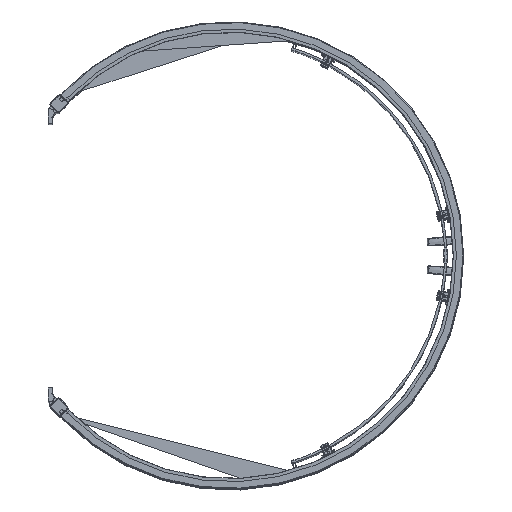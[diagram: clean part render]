
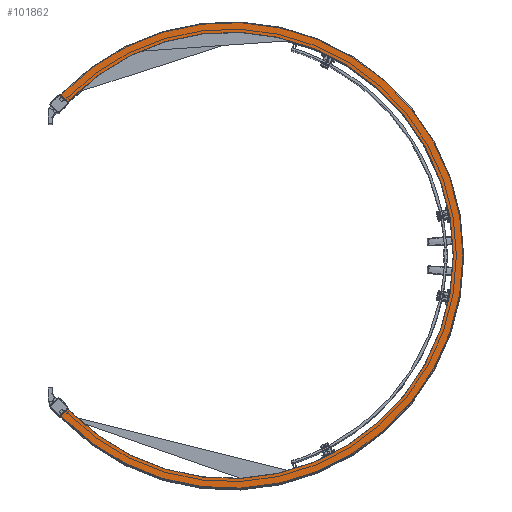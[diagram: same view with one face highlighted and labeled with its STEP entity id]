
A CAD part, top view. The second image highlights one B-rep face of the part: STEP entity #101862.
In plain terms, the highlighted planar face has unit normal (0, 0, 1).
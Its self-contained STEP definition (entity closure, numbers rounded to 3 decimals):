
#10848=FACE_OUTER_BOUND($,#17116,.T.);
#17116=EDGE_LOOP($,(#87218,#87219,#87220,#87221,#87222,#87223,#87224,#87225));
#24518=LINE($,#220529,#32311);
#24584=LINE($,#220712,#32377);
#24588=LINE($,#220722,#32381);
#24749=LINE($,#221179,#32542);
#24751=LINE($,#221182,#32544);
#24755=LINE($,#221190,#32548);
#32311=VECTOR($,#137232,26.4);
#32377=VECTOR($,#137386,10.);
#32381=VECTOR($,#137394,10.);
#32542=VECTOR($,#137885,26.4);
#32544=VECTOR($,#137889,10.);
#32548=VECTOR($,#137901,10.);
#37161=CIRCLE($,#111396,611.6);
#37163=CIRCLE($,#111399,638.);
#45781=VERTEX_POINT($,#220526);
#45782=VERTEX_POINT($,#220528);
#45854=VERTEX_POINT($,#220709);
#45855=VERTEX_POINT($,#220711);
#45857=VERTEX_POINT($,#220716);
#45859=VERTEX_POINT($,#220720);
#45951=VERTEX_POINT($,#221012);
#45953=VERTEX_POINT($,#221017);
#59445=EDGE_CURVE($,#45781,#45782,#24518,.T.);
#59534=EDGE_CURVE($,#45854,#45855,#24584,.T.);
#59539=EDGE_CURVE($,#45857,#45859,#24588,.T.);
#59686=EDGE_CURVE($,#45951,#45854,#37161,.T.);
#59689=EDGE_CURVE($,#45953,#45857,#37163,.T.);
#59771=EDGE_CURVE($,#45859,#45855,#24749,.T.);
#59773=EDGE_CURVE($,#45951,#45782,#24751,.T.);
#59777=EDGE_CURVE($,#45781,#45953,#24755,.T.);
#87218=ORIENTED_EDGE($,*,*,#59773,.T.);
#87219=ORIENTED_EDGE($,*,*,#59445,.F.);
#87220=ORIENTED_EDGE($,*,*,#59777,.T.);
#87221=ORIENTED_EDGE($,*,*,#59689,.T.);
#87222=ORIENTED_EDGE($,*,*,#59539,.T.);
#87223=ORIENTED_EDGE($,*,*,#59771,.T.);
#87224=ORIENTED_EDGE($,*,*,#59534,.F.);
#87225=ORIENTED_EDGE($,*,*,#59686,.F.);
#90932=PLANE($,#111484);
#101862=ADVANCED_FACE($,(#10848),#90932,.F.);
#111396=AXIS2_PLACEMENT_3D($,#221014,#137675,#137676);
#111399=AXIS2_PLACEMENT_3D($,#221020,#137682,#137683);
#111484=AXIS2_PLACEMENT_3D($,#221189,#137899,#137900);
#137232=DIRECTION($,(0.718,0.696,0.));
#137386=DIRECTION($,(-0.696,-0.718,0.));
#137394=DIRECTION($,(-0.696,-0.718,0.));
#137675=DIRECTION('center_axis',(0.,0.,
1.));
#137676=DIRECTION('ref_axis',(-0.718,-0.696,0.));
#137682=DIRECTION('center_axis',(0.,0.,
1.));
#137683=DIRECTION('ref_axis',(-0.718,-0.696,0.));
#137885=DIRECTION($,(0.718,-0.696,0.));
#137889=DIRECTION($,(-0.696,0.718,0.));
#137899=DIRECTION('center_axis',(0.,0.,
-1.));
#137900=DIRECTION('ref_axis',(0.718,0.696,0.));
#137901=DIRECTION($,(0.696,-0.718,0.));
#220526=CARTESIAN_POINT('',(-81.491,-677.228,2010.));
#220528=CARTESIAN_POINT('',(-62.538,-658.85,2010.));
#220529=CARTESIAN_POINT($,(-81.491,-677.228,2010.));
#220709=CARTESIAN_POINT('',(-55.577,185.477,2010.));
#220711=CARTESIAN_POINT('',(-62.538,178.298,2010.));
#220712=CARTESIAN_POINT($,(-55.577,185.477,2010.));
#220716=CARTESIAN_POINT('',(-74.53,203.855,2010.));
#220720=CARTESIAN_POINT('',(-81.491,196.676,2010.));
#220722=CARTESIAN_POINT($,(-74.53,203.855,2010.));
#221012=CARTESIAN_POINT('',(-55.577,-666.029,2010.));
#221014=CARTESIAN_POINT('Origin',(383.5,-240.276,2010.));
#221017=CARTESIAN_POINT('',(-74.53,-684.407,2010.));
#221020=CARTESIAN_POINT('Origin',(383.5,-240.276,2010.));
#221179=CARTESIAN_POINT($,(-81.491,196.676,2010.));
#221182=CARTESIAN_POINT($,(-62.538,-658.85,2010.));
#221189=CARTESIAN_POINT('Origin',(-81.491,-677.228,2010.));
#221190=CARTESIAN_POINT($,(-81.491,-677.228,2010.));
